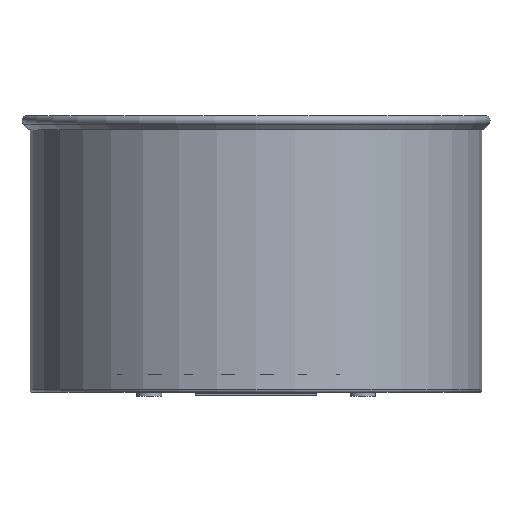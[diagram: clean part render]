
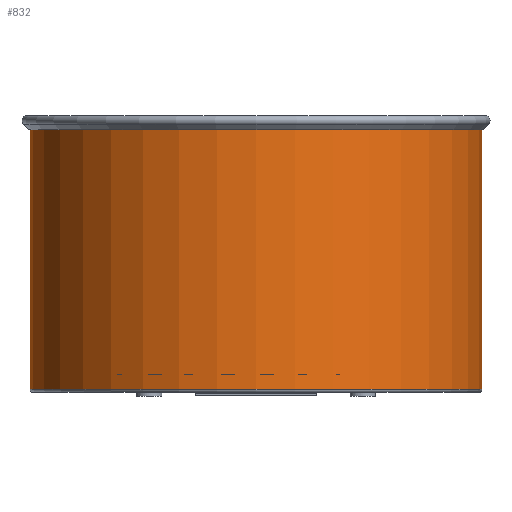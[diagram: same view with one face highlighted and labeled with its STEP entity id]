
A CAD part, front view. The second image highlights one B-rep face of the part: STEP entity #832.
In plain terms, the highlighted cylindrical face has radius 224.5 mm (diameter 449 mm), a full revolution.
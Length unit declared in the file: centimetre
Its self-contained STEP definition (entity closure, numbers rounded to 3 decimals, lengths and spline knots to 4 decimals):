
#132=FACE_BOUND('',#282,.T.);
#161=CYLINDRICAL_SURFACE('',#930,22.45);
#196=FACE_OUTER_BOUND('',#281,.T.);
#281=EDGE_LOOP('',(#601));
#282=EDGE_LOOP('',(#602));
#357=CIRCLE('',#928,22.45);
#358=CIRCLE('',#931,22.45);
#411=VERTEX_POINT('',#1341);
#412=VERTEX_POINT('',#1345);
#483=EDGE_CURVE('',#411,#411,#357,.T.);
#484=EDGE_CURVE('',#412,#412,#358,.T.);
#601=ORIENTED_EDGE('',*,*,#484,.F.);
#602=ORIENTED_EDGE('',*,*,#483,.F.);
#832=ADVANCED_FACE('',(#196,#132),#161,.T.);
#928=AXIS2_PLACEMENT_3D('',#1342,#1103,#1104);
#930=AXIS2_PLACEMENT_3D('',#1344,#1107,#1108);
#931=AXIS2_PLACEMENT_3D('',#1346,#1109,#1110);
#1103=DIRECTION('center_axis',(0.,0.,-1.));
#1104=DIRECTION('ref_axis',(1.,0.,0.));
#1107=DIRECTION('center_axis',(0.,0.,1.));
#1108=DIRECTION('ref_axis',(-1.,0.,0.));
#1109=DIRECTION('center_axis',(0.,0.,1.));
#1110=DIRECTION('ref_axis',(-1.,0.,0.));
#1341=CARTESIAN_POINT('',(-22.45,-5.8,0.45));
#1342=CARTESIAN_POINT('Origin',(0.,-5.8,0.45));
#1344=CARTESIAN_POINT('Origin',(0.,-5.8,13.268));
#1345=CARTESIAN_POINT('',(-22.45,-5.8,26.3861));
#1346=CARTESIAN_POINT('Origin',(0.,-5.8,26.3861));
